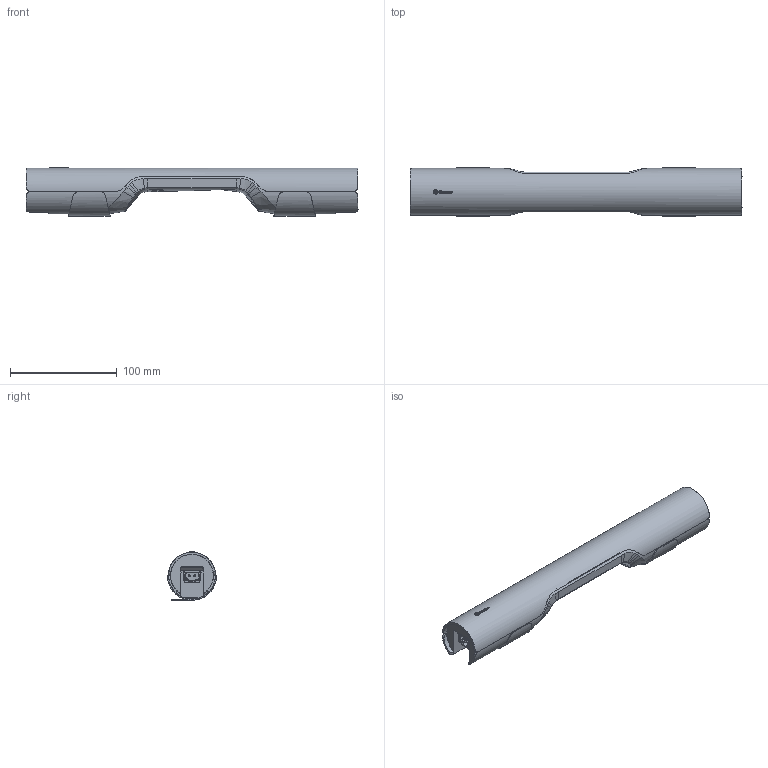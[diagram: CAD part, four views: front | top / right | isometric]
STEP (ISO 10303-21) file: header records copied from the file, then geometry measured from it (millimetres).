
FILE_DESCRIPTION(/* description */ ('Unknown'),/* implementation_level */ '2;1');
FILE_NAME(/* name */ '7L.4X.0.Y.0200',/* time_stamp */ '2020-09-24T14:23:07+02:00',/* author */ ('Unknown'),/* organization */ ('Unknown'),/* preprocessor_version */ 'ST-DEVELOPER v16.7',/* originating_system */ 'DEX',/* authorisation */ $);
FILE_SCHEMA (('AUTOMOTIVE_DESIGN {1 0 10303 214 3 1 1}'));
Products named in the file (1): 7L.4X.0.Y.0200
Bounding box: 310.57 x 46 x 45.23 mm (x, y, z)
Surface area: 77132.8 mm2 (no closed solid volume)
Topology: 0 solids, 23 shells, 1562 faces, 4796 edges, 3258 vertices
Faces by surface type: plane 1251, cylinder 171, bspline 128, cone 8, sphere 2, torus 2
Full cylindrical faces by diameter (mm): 1.75 x2, 2 x4, 3.3 x2, 4 x2, 4.2 x2, 4.263 x1, 10.8 x1
Entity records: 62531 total; most frequent: CARTESIAN_POINT 18778, ORIENTED_EDGE 8942, DIRECTION 7234, EDGE_CURVE 4765, LINE 3556, VECTOR 3556, VERTEX_POINT 3249, AXIS2_PLACEMENT_3D 1839
